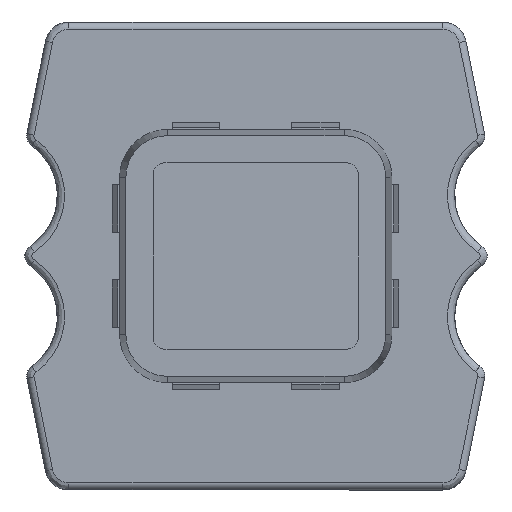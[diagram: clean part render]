
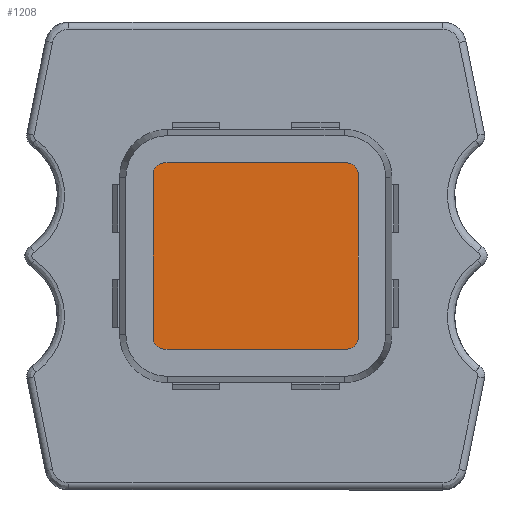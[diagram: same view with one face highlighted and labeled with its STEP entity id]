
A CAD part, left-side view. The second image highlights one B-rep face of the part: STEP entity #1208.
In plain terms, the highlighted planar face has unit normal (-1, 0, 0).
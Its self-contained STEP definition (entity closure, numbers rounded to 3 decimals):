
#146 = CARTESIAN_POINT ( 'NONE',  ( 203., 89.059, 35.1 ) ) ;
#155 = VERTEX_POINT ( 'NONE', #8282 ) ;
#171 = CARTESIAN_POINT ( 'NONE',  ( 203., 89.559, 28.3 ) ) ;
#487 = DIRECTION ( 'NONE',  ( -1., 0., 0. ) ) ;
#842 = DIRECTION ( 'NONE',  ( -1., 0., 0. ) ) ;
#971 = CARTESIAN_POINT ( 'NONE',  ( 203., 97.159, 35.6 ) ) ;
#992 = ORIENTED_EDGE ( 'NONE', *, *, #4351, .T. ) ;
#1053 = ORIENTED_EDGE ( 'NONE', *, *, #7376, .T. ) ;
#1090 = DIRECTION ( 'NONE',  ( -1., 0., 0. ) ) ;
#1132 = ORIENTED_EDGE ( 'NONE', *, *, #2437, .T. ) ;
#1208 = ADVANCED_FACE ( 'NONE', ( #4286 ), #2608, .T. ) ;
#1380 = EDGE_CURVE ( 'NONE', #6550, #8829, #6998, .T. ) ;
#1490 = LINE ( 'NONE', #6618, #5400 ) ;
#1522 = DIRECTION ( 'NONE',  ( -1., 0., 0. ) ) ;
#1571 = CARTESIAN_POINT ( 'NONE',  ( 203., 89.059, 28.3 ) ) ;
#1618 = CARTESIAN_POINT ( 'NONE',  ( 203., 97.159, 28.3 ) ) ;
#1706 = CARTESIAN_POINT ( 'NONE',  ( 203., 97.659, 28.3 ) ) ;
#1772 = AXIS2_PLACEMENT_3D ( 'NONE', #3647, #842, #2181 ) ;
#2027 = CIRCLE ( 'NONE', #2770, 0.5 ) ;
#2129 = EDGE_CURVE ( 'NONE', #2976, #4537, #5370, .T. ) ;
#2181 = DIRECTION ( 'NONE',  ( 0., 0., 1. ) ) ;
#2437 = EDGE_CURVE ( 'NONE', #6997, #6550, #8957, .T. ) ;
#2608 = PLANE ( 'NONE',  #3817 ) ;
#2642 = ORIENTED_EDGE ( 'NONE', *, *, #8675, .T. ) ;
#2770 = AXIS2_PLACEMENT_3D ( 'NONE', #1618, #1522, #5026 ) ;
#2962 = LINE ( 'NONE', #971, #5885 ) ;
#2970 = EDGE_CURVE ( 'NONE', #8629, #155, #1490, .T. ) ;
#2976 = VERTEX_POINT ( 'NONE', #6593 ) ;
#3013 = VECTOR ( 'NONE', #7099, 1000. ) ;
#3079 = CARTESIAN_POINT ( 'NONE',  ( 203., 97.159, 27.8 ) ) ;
#3295 = DIRECTION ( 'NONE',  ( 0., 0., 1. ) ) ;
#3647 = CARTESIAN_POINT ( 'NONE',  ( 203., 89.559, 35.1 ) ) ;
#3652 = VECTOR ( 'NONE', #3773, 1000. ) ;
#3773 = DIRECTION ( 'NONE',  ( 0., 0., -1. ) ) ;
#3817 = AXIS2_PLACEMENT_3D ( 'NONE', #8880, #4741, #4677 ) ;
#4286 = FACE_OUTER_BOUND ( 'NONE', #7864, .T. ) ;
#4351 = EDGE_CURVE ( 'NONE', #155, #6997, #7777, .T. ) ;
#4537 = VERTEX_POINT ( 'NONE', #5846 ) ;
#4577 = ORIENTED_EDGE ( 'NONE', *, *, #1380, .T. ) ;
#4677 = DIRECTION ( 'NONE',  ( 0., 0., 1. ) ) ;
#4741 = DIRECTION ( 'NONE',  ( -1., 0., 0. ) ) ;
#5026 = DIRECTION ( 'NONE',  ( 0., 0., 1. ) ) ;
#5036 = ORIENTED_EDGE ( 'NONE', *, *, #5704, .T. ) ;
#5289 = CARTESIAN_POINT ( 'NONE',  ( 203., 89.059, 35.1 ) ) ;
#5370 = LINE ( 'NONE', #1706, #3652 ) ;
#5400 = VECTOR ( 'NONE', #7998, 1000. ) ;
#5503 = CARTESIAN_POINT ( 'NONE',  ( 203., 89.559, 35.6 ) ) ;
#5558 = CIRCLE ( 'NONE', #7696, 0.5 ) ;
#5611 = AXIS2_PLACEMENT_3D ( 'NONE', #171, #487, #3295 ) ;
#5704 = EDGE_CURVE ( 'NONE', #4537, #8629, #2027, .T. ) ;
#5846 = CARTESIAN_POINT ( 'NONE',  ( 203., 97.659, 28.3 ) ) ;
#5885 = VECTOR ( 'NONE', #6487, 1000. ) ;
#5951 = DIRECTION ( 'NONE',  ( 0., 0., 1. ) ) ;
#6487 = DIRECTION ( 'NONE',  ( 0., 1., 0. ) ) ;
#6550 = VERTEX_POINT ( 'NONE', #5289 ) ;
#6593 = CARTESIAN_POINT ( 'NONE',  ( 203., 97.659, 35.1 ) ) ;
#6618 = CARTESIAN_POINT ( 'NONE',  ( 203., 89.559, 27.8 ) ) ;
#6785 = VERTEX_POINT ( 'NONE', #8898 ) ;
#6997 = VERTEX_POINT ( 'NONE', #1571 ) ;
#6998 = CIRCLE ( 'NONE', #1772, 0.5 ) ;
#7078 = ORIENTED_EDGE ( 'NONE', *, *, #2129, .T. ) ;
#7099 = DIRECTION ( 'NONE',  ( 0., 0., 1. ) ) ;
#7376 = EDGE_CURVE ( 'NONE', #6785, #2976, #5558, .T. ) ;
#7696 = AXIS2_PLACEMENT_3D ( 'NONE', #8017, #1090, #5951 ) ;
#7777 = CIRCLE ( 'NONE', #5611, 0.5 ) ;
#7864 = EDGE_LOOP ( 'NONE', ( #5036, #8940, #992, #1132, #4577, #2642, #1053, #7078 ) ) ;
#7998 = DIRECTION ( 'NONE',  ( 0., -1., 0. ) ) ;
#8017 = CARTESIAN_POINT ( 'NONE',  ( 203., 97.159, 35.1 ) ) ;
#8282 = CARTESIAN_POINT ( 'NONE',  ( 203., 89.559, 27.8 ) ) ;
#8629 = VERTEX_POINT ( 'NONE', #3079 ) ;
#8675 = EDGE_CURVE ( 'NONE', #8829, #6785, #2962, .T. ) ;
#8829 = VERTEX_POINT ( 'NONE', #5503 ) ;
#8880 = CARTESIAN_POINT ( 'NONE',  ( 203., 93.355, 31.7 ) ) ;
#8898 = CARTESIAN_POINT ( 'NONE',  ( 203., 97.159, 35.6 ) ) ;
#8940 = ORIENTED_EDGE ( 'NONE', *, *, #2970, .T. ) ;
#8957 = LINE ( 'NONE', #146, #3013 ) ;
